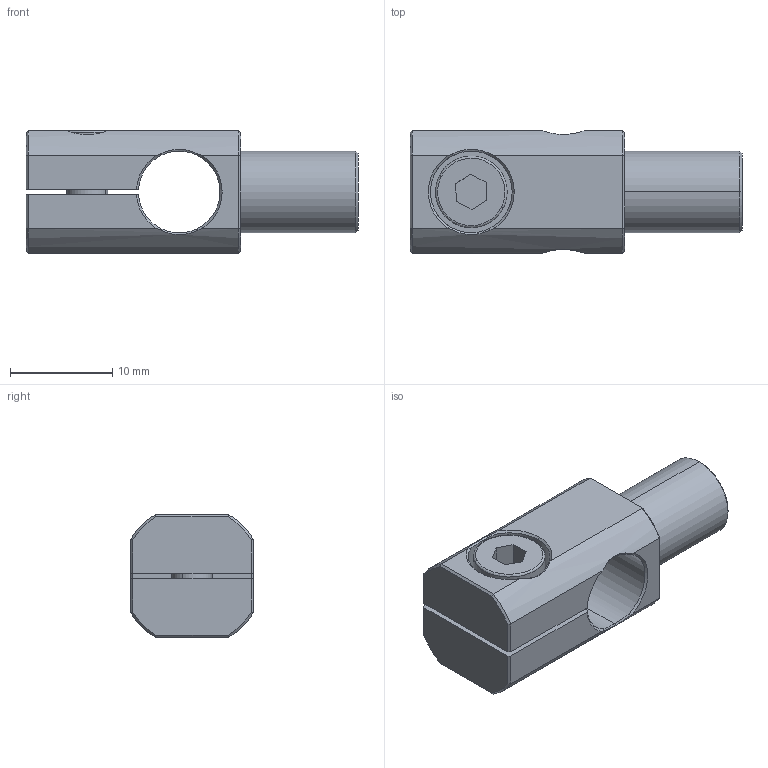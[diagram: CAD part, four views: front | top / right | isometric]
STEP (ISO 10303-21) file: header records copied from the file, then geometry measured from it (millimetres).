
FILE_DESCRIPTION (( 'STEP AP214' ), '1' );
FILE_NAME ('SMBR4-0808M4.STEP', '2019-11-07T01:56:12', ( '微软用户' ), ( '微软中国' ), 'SwSTEP 2.0', 'SolidWorks 2016', '' );
FILE_SCHEMA (( 'AUTOMOTIVE_DESIGN' ));
Length unit declared in the file: millimetre
Products named in the file (1): SMBR4-0808M4
Bounding box: 32.5 x 12 x 12 mm (x, y, z)
Volume: 2586.3 mm3; surface area: 2472 mm2
Topology: 3 solids, 3 shells, 287 faces, 805 edges, 526 vertices
Faces by surface type: plane 229, cone 25, cylinder 25, bspline 8
Entity records: 12861 total; most frequent: CARTESIAN_POINT 2155, ORIENTED_EDGE 1610, DIRECTION 1561, EDGE_CURVE 805, AXIS2_PLACEMENT_3D 542, VERTEX_POINT 526, VECTOR 477, LINE 477
